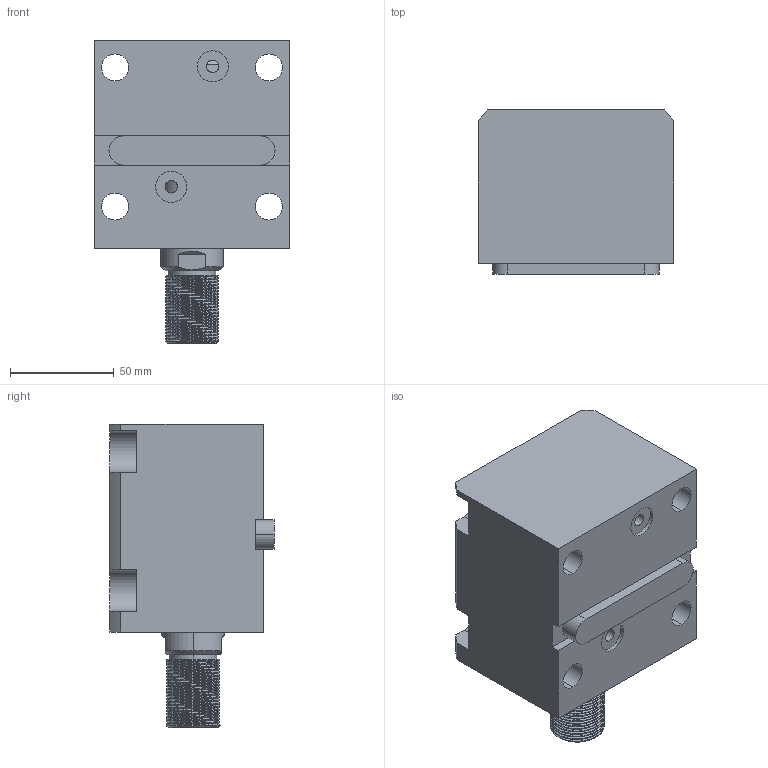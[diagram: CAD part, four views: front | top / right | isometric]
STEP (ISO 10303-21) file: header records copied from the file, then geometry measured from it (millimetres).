
FILE_DESCRIPTION (( 'STEP AP203' ), '1' );
FILE_NAME ('CHTB-LAM50-40W.STEP', '2018-05-23T10:23:06', ( '' ), ( '' ), 'SwSTEP 2.0', 'SolidWorks 2015', '' );
FILE_SCHEMA (( 'CONFIG_CONTROL_DESIGN' ));
Length unit declared in the file: millimetre
Products named in the file (4): 掛极LAM50-40W; 活塞杆LAM50-40W; CHTB-LAM50-40W; CHTM-SDMA50QG
Assembly tree (3 placements, depth 2):
  CHTB-LAM50-40W
    掛极LAM50-40W
    活塞杆LAM50-40W
    CHTM-SDMA50QG
Bounding box: 94 x 79 x 146 mm (x, y, z)
Volume: 616965 mm3; surface area: 109599.9 mm2
Topology: 3 solids, 3 shells, 234 faces, 652 edges, 436 vertices
Faces by surface type: cylinder 136, plane 53, bspline 16, torus 16, cone 13
Entity records: 14802 total; most frequent: CARTESIAN_POINT 8867, ORIENTED_EDGE 1296, DIRECTION 1023, EDGE_CURVE 648, VERTEX_POINT 436, AXIS2_PLACEMENT_3D 395, EDGE_LOOP 264, FACE_OUTER_BOUND 234
